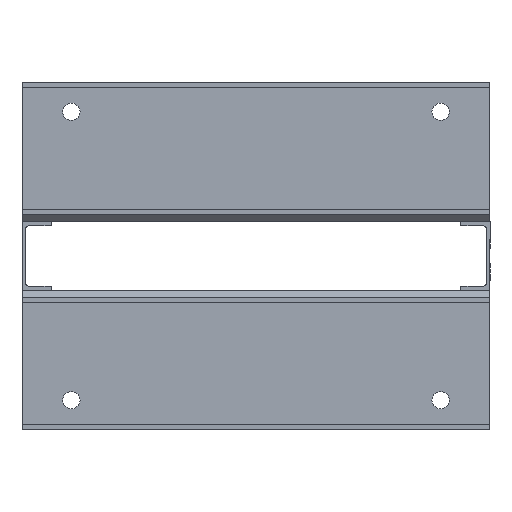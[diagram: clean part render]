
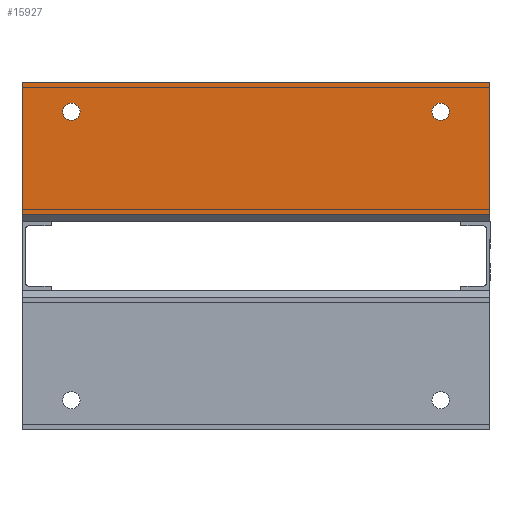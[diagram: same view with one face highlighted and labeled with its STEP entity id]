
A CAD part, front view. The second image highlights one B-rep face of the part: STEP entity #15927.
In plain terms, the highlighted planar face has unit normal (0, -1, 0).
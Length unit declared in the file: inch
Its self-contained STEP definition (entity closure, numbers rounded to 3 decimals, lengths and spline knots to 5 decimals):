
#225 = LINE ( 'NONE', #13305, #22895 ) ;
#605 = VERTEX_POINT ( 'NONE', #21355 ) ;
#1392 = CIRCLE ( 'NONE', #16775, 0.375 ) ;
#1646 = AXIS2_PLACEMENT_3D ( 'NONE', #8552, #21017, #10309 ) ;
#2109 = CIRCLE ( 'NONE', #1646, 0.375 ) ;
#2220 = ORIENTED_EDGE ( 'NONE', *, *, #12655, .F. ) ;
#2257 = EDGE_CURVE ( 'NONE', #9484, #4545, #5347, .T. ) ;
#2570 = DIRECTION ( 'NONE',  ( 0., 0., -1. ) ) ;
#2666 = CARTESIAN_POINT ( 'NONE',  ( 8., 0., 4.75 ) ) ;
#2996 = CARTESIAN_POINT ( 'NONE',  ( -10.125, 0., 0.3125 ) ) ;
#3308 = VECTOR ( 'NONE', #20035, 39.37008 ) ;
#3342 = CARTESIAN_POINT ( 'NONE',  ( -8., 0., 4.375 ) ) ;
#3496 = EDGE_LOOP ( 'NONE', ( #6038, #4834, #8723, #2220 ) ) ;
#3551 = DIRECTION ( 'NONE',  ( 0., -1., 0. ) ) ;
#3654 = EDGE_CURVE ( 'NONE', #10273, #20423, #12829, .T. ) ;
#3790 = CARTESIAN_POINT ( 'NONE',  ( 8., 0., 5.125 ) ) ;
#4492 = DIRECTION ( 'NONE',  ( 0., 0., 1. ) ) ;
#4545 = VERTEX_POINT ( 'NONE', #6651 ) ;
#4834 = ORIENTED_EDGE ( 'NONE', *, *, #3654, .T. ) ;
#5347 = CIRCLE ( 'NONE', #14076, 0.375 ) ;
#5802 = LINE ( 'NONE', #7122, #14768 ) ;
#5815 = CARTESIAN_POINT ( 'NONE',  ( -10.125, 0., 6. ) ) ;
#6038 = ORIENTED_EDGE ( 'NONE', *, *, #7092, .T. ) ;
#6239 = ORIENTED_EDGE ( 'NONE', *, *, #7366, .T. ) ;
#6384 = CARTESIAN_POINT ( 'NONE',  ( 10.125, 0., 0.3125 ) ) ;
#6530 = DIRECTION ( 'NONE',  ( 0., 0., -1. ) ) ;
#6651 = CARTESIAN_POINT ( 'NONE',  ( 8., 0., 4.375 ) ) ;
#7016 = EDGE_CURVE ( 'NONE', #21256, #20423, #10878, .T. ) ;
#7092 = EDGE_CURVE ( 'NONE', #13136, #10273, #225, .T. ) ;
#7095 = ORIENTED_EDGE ( 'NONE', *, *, #21195, .F. ) ;
#7122 = CARTESIAN_POINT ( 'NONE',  ( -10.125, 0., 6. ) ) ;
#7366 = EDGE_CURVE ( 'NONE', #605, #18340, #1392, .T. ) ;
#8529 = CIRCLE ( 'NONE', #17293, 0.375 ) ;
#8552 = CARTESIAN_POINT ( 'NONE',  ( -8., 0., 4.75 ) ) ;
#8715 = ORIENTED_EDGE ( 'NONE', *, *, #14420, .T. ) ;
#8723 = ORIENTED_EDGE ( 'NONE', *, *, #7016, .F. ) ;
#9484 = VERTEX_POINT ( 'NONE', #3790 ) ;
#9630 = FACE_OUTER_BOUND ( 'NONE', #3496, .T. ) ;
#10128 = CARTESIAN_POINT ( 'NONE',  ( -8., 0., 4.75 ) ) ;
#10273 = VERTEX_POINT ( 'NONE', #2996 ) ;
#10309 = DIRECTION ( 'NONE',  ( 0., 0., 1. ) ) ;
#10878 = LINE ( 'NONE', #21965, #19856 ) ;
#11920 = DIRECTION ( 'NONE',  ( 0., 0., 1. ) ) ;
#12655 = EDGE_CURVE ( 'NONE', #13136, #21256, #5802, .T. ) ;
#12829 = LINE ( 'NONE', #18328, #3308 ) ;
#13058 = AXIS2_PLACEMENT_3D ( 'NONE', #13648, #17254, #6530 ) ;
#13068 = DIRECTION ( 'NONE',  ( 0., 0., -1. ) ) ;
#13136 = VERTEX_POINT ( 'NONE', #5815 ) ;
#13197 = EDGE_LOOP ( 'NONE', ( #6239, #8715 ) ) ;
#13305 = CARTESIAN_POINT ( 'NONE',  ( -10.125, 0., 0. ) ) ;
#13648 = CARTESIAN_POINT ( 'NONE',  ( -10.125, 0., 0. ) ) ;
#14076 = AXIS2_PLACEMENT_3D ( 'NONE', #14282, #3551, #16076 ) ;
#14282 = CARTESIAN_POINT ( 'NONE',  ( 8., 0., 4.75 ) ) ;
#14420 = EDGE_CURVE ( 'NONE', #18340, #605, #2109, .T. ) ;
#14768 = VECTOR ( 'NONE', #16031, 39.37008 ) ;
#15211 = DIRECTION ( 'NONE',  ( 0., -1., 0. ) ) ;
#15927 = ADVANCED_FACE ( 'NONE', ( #19733, #9630, #19162 ), #20748, .T. ) ;
#16031 = DIRECTION ( 'NONE',  ( 1., 0., 0. ) ) ;
#16076 = DIRECTION ( 'NONE',  ( 0., 0., 1. ) ) ;
#16775 = AXIS2_PLACEMENT_3D ( 'NONE', #10128, #22620, #11920 ) ;
#17254 = DIRECTION ( 'NONE',  ( 0., -1., 0. ) ) ;
#17293 = AXIS2_PLACEMENT_3D ( 'NONE', #2666, #15211, #4492 ) ;
#18328 = CARTESIAN_POINT ( 'NONE',  ( -10.125, 0., 0.3125 ) ) ;
#18340 = VERTEX_POINT ( 'NONE', #3342 ) ;
#18902 = CARTESIAN_POINT ( 'NONE',  ( 10.125, 0., 6. ) ) ;
#19162 = FACE_BOUND ( 'NONE', #19761, .T. ) ;
#19733 = FACE_BOUND ( 'NONE', #13197, .T. ) ;
#19761 = EDGE_LOOP ( 'NONE', ( #20934, #7095 ) ) ;
#19856 = VECTOR ( 'NONE', #13068, 39.37008 ) ;
#20035 = DIRECTION ( 'NONE',  ( 1., 0., 0. ) ) ;
#20423 = VERTEX_POINT ( 'NONE', #6384 ) ;
#20748 = PLANE ( 'NONE',  #13058 ) ;
#20934 = ORIENTED_EDGE ( 'NONE', *, *, #2257, .F. ) ;
#21017 = DIRECTION ( 'NONE',  ( 0., 1., 0. ) ) ;
#21195 = EDGE_CURVE ( 'NONE', #4545, #9484, #8529, .T. ) ;
#21256 = VERTEX_POINT ( 'NONE', #18902 ) ;
#21355 = CARTESIAN_POINT ( 'NONE',  ( -8., 0., 5.125 ) ) ;
#21965 = CARTESIAN_POINT ( 'NONE',  ( 10.125, 0., 0. ) ) ;
#22620 = DIRECTION ( 'NONE',  ( 0., 1., 0. ) ) ;
#22895 = VECTOR ( 'NONE', #2570, 39.37008 ) ;
